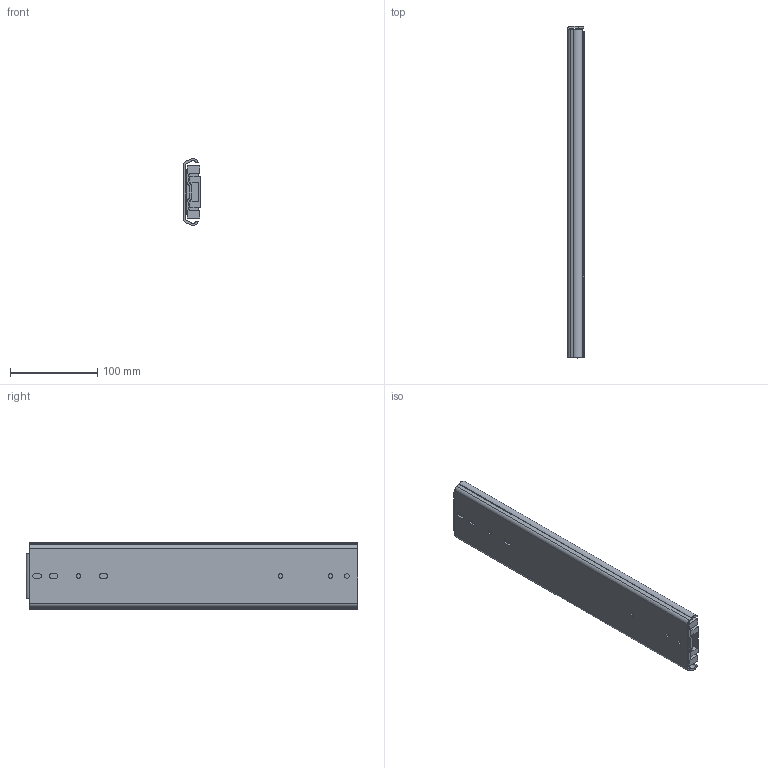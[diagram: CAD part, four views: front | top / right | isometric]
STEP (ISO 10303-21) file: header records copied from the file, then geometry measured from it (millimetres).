
FILE_DESCRIPTION(/* description */ ('Unknown'),/* implementation_level */ '2;1');
FILE_NAME(/* name */ '76J01-15 close',/* time_stamp */ '2024-07-26T15:23:48+08:00',/* author */ ('Unknown'),/* organization */ ('Unknown'),/* preprocessor_version */ 'ST-DEVELOPER v18.104',/* originating_system */ 'Solid Edge',/* authorisation */ 'Unknown');
FILE_SCHEMA (('AUTOMOTIVE_DESIGN {1 0 10303 214 3 1 1}'));
Length unit declared in the file: millimetre
Products named in the file (4): 76J01-15 close; 76J01 15 inch ず愑卸; 76J01 15 ｦT倶ｸｭ; 76J01 15 吋
Assembly tree (3 placements, depth 2):
  76J01-15 close
    76J01 15 inch ず愑卸
    76J01 15 ｦT倶ｸｭ
    76J01 15 吋
Bounding box: 19.3 x 381 x 76.76 mm (x, y, z)
Volume: 296013.7 mm3; surface area: 185684.6 mm2
Topology: 3 solids, 3 shells, 163 faces, 491 edges, 330 vertices
Faces by surface type: plane 92, cylinder 71
Full cylindrical faces by diameter (mm): 5.2 x8
Entity records: 5969 total; most frequent: CARTESIAN_POINT 967, DIRECTION 951, ORIENTED_EDGE 950, EDGE_CURVE 475, LINE 331, VECTOR 331, VERTEX_POINT 322, AXIS2_PLACEMENT_3D 310
